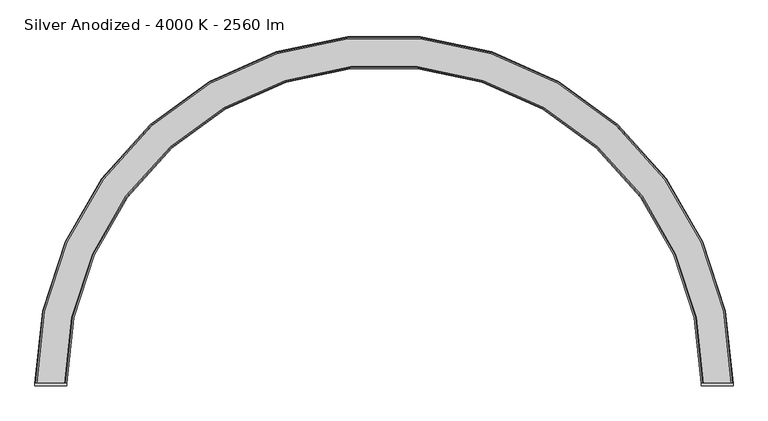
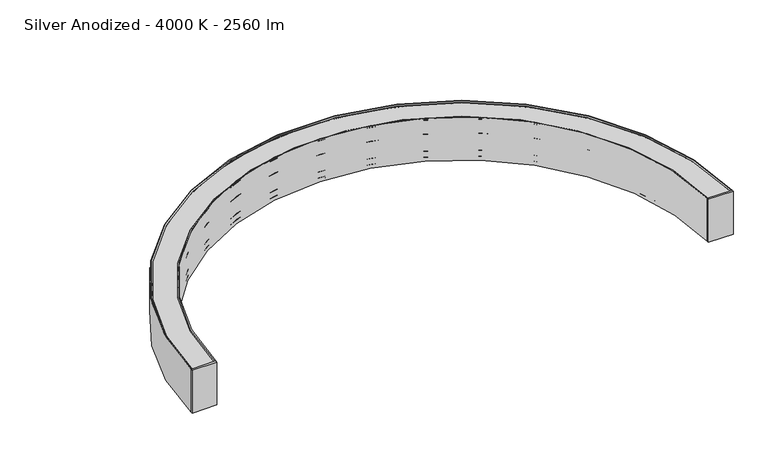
"""IFC4 building model written with IfcOpenShell, lengths in millimetres: light fixture geometry, KLUŚ - SERPENT - R NT 1_2 r 500 : Silver Anodized - 4000 K - 2560 lm."""

from ifc_helpers import new_model, si_unit, point, frame, frame_2d, origin, origin_with_axes, origin_2d, place, context, project, spatial, polyline, circle_curve, trimmed, segment, composite_curve, outline, extrude, source, transform, mapped, element, save
from ifc_brep_helpers import plane_surface, cylinder_surface, revolved_surface, advanced_brep


def silver_anodized_4000_k_2560_lm_beeaa282(model_context):
    return source(origin(), model_context, "Body", "SolidModel", [
        advanced_brep(
        [(466.6768614, 168.0140084, 0.8), (474.2039076, 170.7239118, 0.8), (474.2039076, 170.7239118, 0.0), (466.6768614, 168.0140084, 0.0), (452.5257228, 177.79896, 0.0), (446.9274823, 175.7834694, 5.3344882), (446.9274823, 175.7834694, 14.5), (447.6801869, 176.0544597, 14.5), (447.6801869, 176.0544597, 5.691693), (452.8137392, 177.9026523, 0.8), (478.582368, 187.1799295, 0.8), (483.7159203, 189.0281221, 5.691693), (483.7159203, 189.0281221, 14.5), (484.4686249, 189.2991124, 14.5), (484.4686249, 189.2991124, 5.3344882), (478.8703844, 187.2836218, 0.0), (462.0103846, 151.4542985, 0.0), (488.3550461, 160.9389602, 0.0), (493.9532867, 162.9544509, 5.3344882), (493.9532867, 162.9544509, 14.5), (493.2005821, 162.6834605, 14.5), (493.2005821, 162.6834605, 5.691693), (488.0670297, 160.835268, 0.8), (462.298401, 151.5579908, 0.8), (457.1648486, 149.7097982, 5.691693), (457.1648486, 149.7097982, 14.5), (456.412144, 149.4388078, 14.5), (456.412144, 149.4388078, 5.3344882)],
        [
            (0, 1, circle_curve(frame((470.4403845, 169.3689601, 0.8), z_axis=(0.0, 0.0, 1.0), x_axis=(-0.9408807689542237, -0.33873792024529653, 0.0)), 4.0)),
            (1, 2),
            (2, 3, circle_curve(frame((470.4403845, 169.3689601, 0.0), z_axis=(0.0, 0.0, -1.0), x_axis=(-0.9408807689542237, -0.33873792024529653, 0.0)), 4.0)),
            (3, 0),
            (3, 2, circle_curve(frame((470.4403845, 169.3689601, 0.0), z_axis=(0.0, 0.0, -1.0), x_axis=(-0.9408807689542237, -0.33873792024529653, 0.0)), 4.0)),
            (1, 0, circle_curve(frame((470.4403845, 169.3689601, 0.8), z_axis=(0.0, 0.0, 1.0), x_axis=(-0.9408807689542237, -0.33873792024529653, 0.0)), 4.0)),
            (4, 5),
            (5, 6),
            (6, 7),
            (7, 8),
            (8, 9),
            (9, 10),
            (10, 11),
            (11, 12),
            (12, 13),
            (13, 14),
            (14, 15),
            (15, 4),
            (16, 17),
            (17, 18),
            (18, 19),
            (19, 20),
            (20, 21),
            (21, 22),
            (22, 23),
            (23, 24),
            (24, 25),
            (25, 26),
            (26, 27),
            (27, 16),
            (15, 17),
            (16, 4),
            (14, 18),
            (13, 19),
            (12, 20),
            (11, 21),
            (10, 22),
            (9, 23),
            (8, 24),
            (7, 25),
            (6, 26),
            (5, 27),
        ],
        [
            revolved_surface(polyline([(466.6768614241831, 168.01400841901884, 0.8), (466.6768614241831, 168.01400841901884, 0.0)]), (470.4403845, 169.3689601, 0.0), (0.0, 0.0, 1.0)),
            plane_surface(frame((465.6980536, 182.5412909, 0.0), z_axis=(-0.33873792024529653, 0.9408807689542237, 0.0), x_axis=(0.0, 0.0, 1.0))),
            plane_surface(frame((475.1827154, 156.1966294, 0.0), z_axis=(0.33873792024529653, -0.9408807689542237, 0.0), x_axis=(0.0, 0.0, 1.0))),
            plane_surface(frame((452.5257228, 177.79896, 0.0), z_axis=(0.0, 0.0, -1.0), x_axis=(0.33873792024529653, -0.9408807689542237, 0.0))),
            plane_surface(frame((478.8703844, 187.2836218, 0.0), z_axis=(0.6280806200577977, 0.22612293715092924, -0.7445691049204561), x_axis=(0.33873792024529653, -0.9408807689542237, 0.0))),
            plane_surface(frame((484.4686249, 189.2991124, 5.3344882), z_axis=(0.9408807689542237, 0.33873792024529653, 0.0), x_axis=(0.33873792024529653, -0.9408807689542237, 0.0))),
            plane_surface(frame((484.4686249, 189.2991124, 14.5), z_axis=(0.0, 0.0, 1.0), x_axis=(0.33873792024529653, -0.9408807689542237, 0.0))),
            plane_surface(frame((483.7159203, 189.0281221, 14.5), z_axis=(-0.9408807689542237, -0.33873792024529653, 0.0), x_axis=(0.33873792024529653, -0.9408807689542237, 0.0))),
            plane_surface(frame((483.7159203, 189.0281221, 5.691693), z_axis=(-0.6280806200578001, -0.22612293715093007, 0.744569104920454), x_axis=(0.33873792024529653, -0.9408807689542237, 0.0))),
            plane_surface(frame((478.582368, 187.1799295, 0.8), z_axis=(0.0, 0.0, 1.0), x_axis=(0.33873792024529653, -0.9408807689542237, 0.0))),
            plane_surface(frame((452.8137392, 177.9026523, 0.8), z_axis=(0.6280806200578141, 0.2261229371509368, 0.7445691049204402), x_axis=(0.33873792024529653, -0.9408807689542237, 0.0))),
            plane_surface(frame((447.6801869, 176.0544597, 5.691693), z_axis=(0.9408807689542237, 0.33873792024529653, 0.0), x_axis=(0.33873792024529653, -0.9408807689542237, 0.0))),
            plane_surface(frame((447.6801869, 176.0544597, 14.5), z_axis=(0.0, 0.0, 1.0), x_axis=(0.33873792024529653, -0.9408807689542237, 0.0))),
            plane_surface(frame((446.9274823, 175.7834694, 14.5), z_axis=(-0.9408807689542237, -0.33873792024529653, 0.0), x_axis=(0.33873792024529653, -0.9408807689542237, 0.0))),
            plane_surface(frame((446.9274823, 175.7834694, 5.3344882), z_axis=(-0.628080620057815, -0.2261229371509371, -0.7445691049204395), x_axis=(0.33873792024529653, -0.9408807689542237, 0.0))),
        ],
        [
            (0, [[1, 2, 3, 4]]),
            (0, [[5, -2, 6, -4]]),
            (1, [[7, 8, 9, 10, 11, 12, 13, 14, 15, 16, 17, 18]]),
            (2, [[19, 20, 21, 22, 23, 24, 25, 26, 27, 28, 29, 30]]),
            (3, [[31, -19, 32, -18], [-5, -3]]),
            (4, [[33, -20, -31, -17]]),
            (5, [[34, -21, -33, -16]]),
            (6, [[35, -22, -34, -15]]),
            (7, [[36, -23, -35, -14]]),
            (8, [[37, -24, -36, -13]]),
            (9, [[38, -25, -37, -12], [-6, -1]]),
            (10, [[39, -26, -38, -11]]),
            (11, [[40, -27, -39, -10]]),
            (12, [[41, -28, -40, -9]]),
            (13, [[42, -29, -41, -8]]),
            (14, [[-32, -30, -42, -7]]),
        ],
    ),
        advanced_brep(
        [(0.0, 496.0, 0.8), (0.0, 504.0, 0.8), (0.0, 504.0, 0.0), (0.0, 496.0, 0.0), (-14.0, 486.0, 0.0), (-14.0, 480.05, 5.3344882), (-14.0, 480.05, 14.5), (-14.0, 480.85, 14.5), (-14.0, 480.85, 5.691693), (-14.0, 486.3061136, 0.8), (-14.0, 513.6938864, 0.8), (-14.0, 519.15, 5.691693), (-14.0, 519.15, 14.5), (-14.0, 519.95, 14.5), (-14.0, 519.95, 5.3344882), (-14.0, 514.0, 0.0), (14.0, 486.0, 0.0), (14.0, 514.0, 0.0), (14.0, 519.95, 5.3344882), (14.0, 519.95, 14.5), (14.0, 519.15, 14.5), (14.0, 519.15, 5.691693), (14.0, 513.6938864, 0.8), (14.0, 486.3061136, 0.8), (14.0, 480.85, 5.691693), (14.0, 480.85, 14.5), (14.0, 480.05, 14.5), (14.0, 480.05, 5.3344882)],
        [
            (0, 1, circle_curve(frame((0.0, 500.0, 0.8), z_axis=(0.0, 0.0, 1.0), x_axis=(0.0, -1.0, 0.0)), 4.0)),
            (1, 2),
            (2, 3, circle_curve(frame((0.0, 500.0, 0.0), z_axis=(0.0, 0.0, -1.0), x_axis=(0.0, -1.0, 0.0)), 4.0)),
            (3, 0),
            (3, 2, circle_curve(frame((0.0, 500.0, 0.0), z_axis=(0.0, 0.0, -1.0), x_axis=(0.0, -1.0, 0.0)), 4.0)),
            (1, 0, circle_curve(frame((0.0, 500.0, 0.8), z_axis=(0.0, 0.0, 1.0), x_axis=(0.0, -1.0, 0.0)), 4.0)),
            (4, 5),
            (5, 6),
            (6, 7),
            (7, 8),
            (8, 9),
            (9, 10),
            (10, 11),
            (11, 12),
            (12, 13),
            (13, 14),
            (14, 15),
            (15, 4),
            (16, 17),
            (17, 18),
            (18, 19),
            (19, 20),
            (20, 21),
            (21, 22),
            (22, 23),
            (23, 24),
            (24, 25),
            (25, 26),
            (26, 27),
            (27, 16),
            (15, 17),
            (16, 4),
            (14, 18),
            (13, 19),
            (12, 20),
            (11, 21),
            (10, 22),
            (9, 23),
            (8, 24),
            (7, 25),
            (6, 26),
            (5, 27),
        ],
        [
            revolved_surface(polyline([(0.0, 496.0, 0.8), (0.0, 496.0, 0.0)]), (0.0, 500.0, 0.0), (0.0, 0.0, 1.0)),
            plane_surface(frame((-14.0, 500.0, 0.0), z_axis=(-1.0, 0.0, 0.0), x_axis=(0.0, 0.0, 1.0))),
            plane_surface(frame((14.0, 500.0, 0.0), z_axis=(1.0, 0.0, 0.0), x_axis=(0.0, 0.0, 1.0))),
            plane_surface(frame((-14.0, 486.0, 0.0), z_axis=(0.0, 0.0, -1.0), x_axis=(1.0, 0.0, 0.0))),
            plane_surface(frame((-14.0, 514.0, 0.0), z_axis=(0.0, 0.6675453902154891, -0.744569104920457), x_axis=(1.0, 0.0, 0.0))),
            plane_surface(frame((-14.0, 519.95, 5.3344882), z_axis=(0.0, 1.0, 0.0), x_axis=(1.0, 0.0, 0.0))),
            plane_surface(frame((-14.0, 519.95, 14.5), z_axis=(0.0, 0.0, 1.0), x_axis=(1.0, 0.0, 0.0))),
            plane_surface(frame((-14.0, 519.15, 14.5), z_axis=(0.0, -1.0, 0.0), x_axis=(1.0, 0.0, 0.0))),
            plane_surface(frame((-14.0, 519.15, 5.691693), z_axis=(0.0, -0.6675453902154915, 0.7445691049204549), x_axis=(1.0, 0.0, 0.0))),
            plane_surface(frame((-14.0, 513.6938864, 0.8), z_axis=(0.0, 0.0, 1.0), x_axis=(1.0, 0.0, 0.0))),
            plane_surface(frame((-14.0, 486.3061136, 0.8), z_axis=(0.0, 0.6675453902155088, 0.7445691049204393), x_axis=(1.0, 0.0, 0.0))),
            plane_surface(frame((-14.0, 480.85, 5.691693), z_axis=(0.0, 1.0, 0.0), x_axis=(1.0, 0.0, 0.0))),
            plane_surface(frame((-14.0, 480.85, 14.5), z_axis=(0.0, 0.0, 1.0), x_axis=(1.0, 0.0, 0.0))),
            plane_surface(frame((-14.0, 480.05, 14.5), z_axis=(0.0, -1.0, 0.0), x_axis=(1.0, 0.0, 0.0))),
            plane_surface(frame((-14.0, 480.05, 5.3344882), z_axis=(0.0, -0.6675453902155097, -0.7445691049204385), x_axis=(1.0, 0.0, 0.0))),
        ],
        [
            (0, [[1, 2, 3, 4]]),
            (0, [[5, -2, 6, -4]]),
            (1, [[7, 8, 9, 10, 11, 12, 13, 14, 15, 16, 17, 18]]),
            (2, [[19, 20, 21, 22, 23, 24, 25, 26, 27, 28, 29, 30]]),
            (3, [[31, -19, 32, -18], [-5, -3]]),
            (4, [[33, -20, -31, -17]]),
            (5, [[34, -21, -33, -16]]),
            (6, [[35, -22, -34, -15]]),
            (7, [[36, -23, -35, -14]]),
            (8, [[37, -24, -36, -13]]),
            (9, [[38, -25, -37, -12], [-6, -1]]),
            (10, [[39, -26, -38, -11]]),
            (11, [[40, -27, -39, -10]]),
            (12, [[41, -28, -40, -9]]),
            (13, [[42, -29, -41, -8]]),
            (14, [[-32, -30, -42, -7]]),
        ],
    ),
        extrude(outline(polyline([(524.0, -3.5), (476.0, -3.5), (476.0, 0.0), (524.0, 0.0), (524.0, -3.5)])), frame((0.0, 0.0, 5.0), z_axis=(0.0, 0.0, 1.0), x_axis=(1.0, 0.0, 0.0)), (0.0, 0.0, 1.0), 88.0),
        extrude(outline(polyline([(-476.0, -3.5), (-524.0, -3.5), (-524.0, 0.0), (-476.0, 0.0), (-476.0, -3.5)])), frame((0.0, 0.0, 5.0), z_axis=(0.0, 0.0, 1.0), x_axis=(1.0, 0.0, 0.0)), (0.0, 0.0, 1.0), 88.0),
        advanced_brep(
        [(-466.6768614, 168.0140084, 0.8), (-466.6768614, 168.0140084, 0.0), (-474.2039076, 170.7239118, 0.0), (-474.2039076, 170.7239118, 0.8), (-452.5257228, 177.79896, 0.0), (-478.8703844, 187.2836218, 0.0), (-484.4686249, 189.2991124, 5.3344882), (-484.4686249, 189.2991124, 14.5), (-483.7159203, 189.0281221, 14.5), (-483.7159203, 189.0281221, 5.691693), (-478.582368, 187.1799295, 0.8), (-452.8137392, 177.9026523, 0.8), (-447.6801869, 176.0544597, 5.691693), (-447.6801869, 176.0544597, 14.5), (-446.9274823, 175.7834694, 14.5), (-446.9274823, 175.7834694, 5.3344882), (-462.0103846, 151.4542985, 0.0), (-456.412144, 149.4388078, 5.3344882), (-456.412144, 149.4388078, 14.5), (-457.1648486, 149.7097982, 14.5), (-457.1648486, 149.7097982, 5.691693), (-462.298401, 151.5579908, 0.8), (-488.0670297, 160.835268, 0.8), (-493.2005821, 162.6834605, 5.691693), (-493.2005821, 162.6834605, 14.5), (-493.9532867, 162.9544509, 14.5), (-493.9532867, 162.9544509, 5.3344882), (-488.3550461, 160.9389602, 0.0)],
        [
            (0, 1),
            (1, 2, circle_curve(frame((-470.4403845, 169.3689601, 0.0), z_axis=(0.0, 0.0, -1.0), x_axis=(0.9408807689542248, -0.33873792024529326, 0.0)), 4.0)),
            (2, 3),
            (3, 0, circle_curve(frame((-470.4403845, 169.3689601, 0.8), z_axis=(0.0, 0.0, 1.0), x_axis=(0.9408807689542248, -0.33873792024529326, 0.0)), 4.0)),
            (0, 3, circle_curve(frame((-470.4403845, 169.3689601, 0.8), z_axis=(0.0, 0.0, 1.0), x_axis=(0.9408807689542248, -0.33873792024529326, 0.0)), 4.0)),
            (2, 1, circle_curve(frame((-470.4403845, 169.3689601, 0.0), z_axis=(0.0, 0.0, -1.0), x_axis=(0.9408807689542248, -0.33873792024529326, 0.0)), 4.0)),
            (4, 5),
            (5, 6),
            (6, 7),
            (7, 8),
            (8, 9),
            (9, 10),
            (10, 11),
            (11, 12),
            (12, 13),
            (13, 14),
            (14, 15),
            (15, 4),
            (16, 17),
            (17, 18),
            (18, 19),
            (19, 20),
            (20, 21),
            (21, 22),
            (22, 23),
            (23, 24),
            (24, 25),
            (25, 26),
            (26, 27),
            (27, 16),
            (4, 16),
            (27, 5),
            (26, 6),
            (25, 7),
            (24, 8),
            (23, 9),
            (22, 10),
            (21, 11),
            (20, 12),
            (19, 13),
            (18, 14),
            (17, 15),
        ],
        [
            revolved_surface(polyline([(-466.6768614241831, 168.01400841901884, 0.8), (-466.6768614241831, 168.01400841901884, 0.0)]), (-470.4403845, 169.3689601, 0.0), (0.0, 0.0, 1.0)),
            plane_surface(frame((-465.6980536, 182.5412909, 0.0), z_axis=(0.33873792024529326, 0.9408807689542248, 0.0), x_axis=(0.0, 0.0, 1.0))),
            plane_surface(frame((-475.1827154, 156.1966294, 0.0), z_axis=(-0.33873792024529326, -0.9408807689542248, 0.0), x_axis=(0.0, 0.0, 1.0))),
            plane_surface(frame((-452.5257228, 177.79896, 0.0), z_axis=(0.0, 0.0, -1.0), x_axis=(-0.33873792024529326, -0.9408807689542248, 0.0))),
            plane_surface(frame((-478.8703844, 187.2836218, 0.0), z_axis=(-0.6280806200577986, 0.2261229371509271, -0.744569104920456), x_axis=(-0.33873792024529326, -0.9408807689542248, 0.0))),
            plane_surface(frame((-484.4686249, 189.2991124, 5.3344882), z_axis=(-0.9408807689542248, 0.33873792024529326, 0.0), x_axis=(-0.33873792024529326, -0.9408807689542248, 0.0))),
            plane_surface(frame((-484.4686249, 189.2991124, 14.5), z_axis=(0.0, 0.0, 1.0), x_axis=(-0.33873792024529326, -0.9408807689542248, 0.0))),
            plane_surface(frame((-483.7159203, 189.0281221, 14.5), z_axis=(0.9408807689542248, -0.33873792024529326, 0.0), x_axis=(-0.33873792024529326, -0.9408807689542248, 0.0))),
            plane_surface(frame((-483.7159203, 189.0281221, 5.691693), z_axis=(0.6280806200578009, -0.22612293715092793, 0.7445691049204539), x_axis=(-0.33873792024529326, -0.9408807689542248, 0.0))),
            plane_surface(frame((-478.582368, 187.1799295, 0.8), z_axis=(0.0, 0.0, 1.0), x_axis=(-0.33873792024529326, -0.9408807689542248, 0.0))),
            plane_surface(frame((-452.8137392, 177.9026523, 0.8), z_axis=(-0.6280806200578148, 0.22612293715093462, 0.74456910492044), x_axis=(-0.33873792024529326, -0.9408807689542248, 0.0))),
            plane_surface(frame((-447.6801869, 176.0544597, 5.691693), z_axis=(-0.9408807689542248, 0.33873792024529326, 0.0), x_axis=(-0.33873792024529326, -0.9408807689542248, 0.0))),
            plane_surface(frame((-447.6801869, 176.0544597, 14.5), z_axis=(0.0, 0.0, 1.0), x_axis=(-0.33873792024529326, -0.9408807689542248, 0.0))),
            plane_surface(frame((-446.9274823, 175.7834694, 14.5), z_axis=(0.9408807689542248, -0.33873792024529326, 0.0), x_axis=(-0.33873792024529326, -0.9408807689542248, 0.0))),
            plane_surface(frame((-446.9274823, 175.7834694, 5.3344882), z_axis=(0.6280806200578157, -0.2261229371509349, -0.7445691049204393), x_axis=(-0.33873792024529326, -0.9408807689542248, 0.0))),
        ],
        [
            (0, [[1, 2, 3, 4]]),
            (0, [[-1, 5, -3, 6]]),
            (1, [[7, 8, 9, 10, 11, 12, 13, 14, 15, 16, 17, 18]]),
            (2, [[19, 20, 21, 22, 23, 24, 25, 26, 27, 28, 29, 30]]),
            (3, [[-7, 31, -30, 32], [-2, -6]]),
            (4, [[-8, -32, -29, 33]]),
            (5, [[-9, -33, -28, 34]]),
            (6, [[-10, -34, -27, 35]]),
            (7, [[-11, -35, -26, 36]]),
            (8, [[-12, -36, -25, 37]]),
            (9, [[-13, -37, -24, 38], [-4, -5]]),
            (10, [[-14, -38, -23, 39]]),
            (11, [[-15, -39, -22, 40]]),
            (12, [[-16, -40, -21, 41]]),
            (13, [[-17, -41, -20, 42]]),
            (14, [[-18, -42, -19, -31]]),
        ],
    ),
        advanced_brep(
        [(-480.05, 0.0, 5.0), (-476.0, 0.0, 5.0), (-476.0, 0.0, 93.0), (-477.35, 0.0, 93.0), (-478.85, 0.0, 91.2514719), (-477.35, 0.0, 89.5029437), (-477.35, 0.0, 13.7), (-480.05, 0.0, 13.7), (480.05, 0.0, 5.0), (480.05, 0.0, 13.7), (477.35, 0.0, 13.7), (477.35, 0.0, 89.5029437), (478.85, 0.0, 91.2514719), (477.35, 0.0, 93.0), (476.0, 0.0, 93.0), (476.0, 0.0, 5.0)],
        [
            (0, 1),
            (1, 2),
            (2, 3),
            (3, 4),
            (4, 5),
            (5, 6),
            (6, 7),
            (7, 0),
            (8, 9),
            (9, 10),
            (10, 11),
            (11, 12),
            (12, 13),
            (13, 14),
            (14, 15),
            (15, 8),
            (15, 1, circle_curve(frame((0.0, 0.0, 5.0), z_axis=(0.0, 0.0, 1.0), x_axis=(-1.0, 0.0, 0.0)), 476.0)),
            (0, 8, circle_curve(frame((0.0, 0.0, 5.0), z_axis=(0.0, 0.0, -1.0), x_axis=(-1.0, 0.0, 0.0)), 480.05)),
            (14, 2, circle_curve(frame((0.0, 0.0, 93.0), z_axis=(0.0, 0.0, 1.0), x_axis=(-1.0, 0.0, 0.0)), 476.0)),
            (13, 3, circle_curve(frame((0.0, 0.0, 93.0), z_axis=(0.0, 0.0, 1.0), x_axis=(-1.0, 0.0, 0.0)), 477.35)),
            (12, 4, circle_curve(frame((0.0, 0.0, 91.2514719), z_axis=(0.0, 0.0, 1.0), x_axis=(-1.0, 0.0, 0.0)), 478.85)),
            (11, 5, circle_curve(frame((0.0, 0.0, 89.5029437), z_axis=(0.0, 0.0, 1.0), x_axis=(-1.0, 0.0, 0.0)), 477.35)),
            (10, 6, circle_curve(frame((0.0, 0.0, 13.7), z_axis=(0.0, 0.0, 1.0), x_axis=(-1.0, 0.0, 0.0)), 477.35)),
            (9, 7, circle_curve(frame((0.0, 0.0, 13.7), z_axis=(0.0, 0.0, 1.0), x_axis=(-1.0, 0.0, 0.0)), 480.05)),
        ],
        [
            plane_surface(frame((-500.0, 0.0, 5.0), z_axis=(0.0, -1.0, 0.0), x_axis=(0.0, 0.0, 1.0))),
            plane_surface(frame((500.0, 0.0, 5.0), z_axis=(0.0, -1.0, 0.0), x_axis=(0.0, 0.0, 1.0))),
            plane_surface(frame((0.0, 0.0, 5.0), z_axis=(0.0, 0.0, -1.0), x_axis=(-1.0, 0.0, 0.0))),
            revolved_surface(polyline([(-476.0, 0.0, 5.0), (-476.0, 0.0, 93.0)]), (0.0, 0.0, 5.0), (0.0, 0.0, -1.0)),
            plane_surface(frame((0.0, 0.0, 93.0), z_axis=(0.0, 0.0, 1.0), x_axis=(-1.0, 0.0, 0.0))),
            revolved_surface(polyline([(-477.35, 0.0, 93.0), (-478.85, 0.0, 91.2514719)]), (0.0, 0.0, 5.0), (0.0, 0.0, -1.0)),
            revolved_surface(polyline([(-478.85, 0.0, 91.2514719), (-477.35, 0.0, 89.5029437)]), (0.0, 0.0, 5.0), (0.0, 0.0, -1.0)),
            cylinder_surface(frame((0.0, 0.0, 5.0), z_axis=(0.0, 0.0, -1.0), x_axis=(-1.0, 0.0, 0.0)), 477.35),
            plane_surface(frame((0.0, 0.0, 13.7), z_axis=(0.0, 0.0, 1.0), x_axis=(-1.0, 0.0, 0.0))),
            cylinder_surface(frame((0.0, 0.0, 5.0), z_axis=(0.0, 0.0, -1.0), x_axis=(-1.0, 0.0, 0.0)), 480.05),
        ],
        [
            (0, [[1, 2, 3, 4, 5, 6, 7, 8]]),
            (1, [[9, 10, 11, 12, 13, 14, 15, 16]]),
            (2, [[17, -1, 18, -16]]),
            (3, [[19, -2, -17, -15]]),
            (4, [[20, -3, -19, -14]]),
            (5, [[21, -4, -20, -13]]),
            (6, [[22, -5, -21, -12]]),
            (7, [[23, -6, -22, -11]]),
            (8, [[24, -7, -23, -10]]),
            (9, [[-18, -8, -24, -9]]),
        ],
    ),
        advanced_brep(
        [(-519.95, 0.0, 5.0), (-519.95, 0.0, 13.7), (-522.65, 0.0, 13.7), (-522.65, 0.0, 89.5029437), (-521.15, 0.0, 91.2514719), (-522.65, 0.0, 93.0), (-524.0, 0.0, 93.0), (-524.0, 0.0, 5.0), (519.95, 0.0, 5.0), (524.0, 0.0, 5.0), (524.0, 0.0, 93.0), (522.65, 0.0, 93.0), (521.15, 0.0, 91.2514719), (522.65, 0.0, 89.5029437), (522.65, 0.0, 13.7), (519.95, 0.0, 13.7)],
        [
            (0, 1),
            (1, 2),
            (2, 3),
            (3, 4),
            (4, 5),
            (5, 6),
            (6, 7),
            (7, 0),
            (8, 9),
            (9, 10),
            (10, 11),
            (11, 12),
            (12, 13),
            (13, 14),
            (14, 15),
            (15, 8),
            (15, 1, circle_curve(frame((0.0, 0.0, 13.7), z_axis=(0.0, 0.0, 1.0), x_axis=(-1.0, 0.0, 0.0)), 519.95)),
            (0, 8, circle_curve(frame((0.0, 0.0, 5.0), z_axis=(0.0, 0.0, -1.0), x_axis=(-1.0, 0.0, 0.0)), 519.95)),
            (14, 2, circle_curve(frame((0.0, 0.0, 13.7), z_axis=(0.0, 0.0, 1.0), x_axis=(-1.0, 0.0, 0.0)), 522.65)),
            (13, 3, circle_curve(frame((0.0, 0.0, 89.5029437), z_axis=(0.0, 0.0, 1.0), x_axis=(-1.0, 0.0, 0.0)), 522.65)),
            (12, 4, circle_curve(frame((0.0, 0.0, 91.2514719), z_axis=(0.0, 0.0, 1.0), x_axis=(-1.0, 0.0, 0.0)), 521.15)),
            (11, 5, circle_curve(frame((0.0, 0.0, 93.0), z_axis=(0.0, 0.0, 1.0), x_axis=(-1.0, 0.0, 0.0)), 522.65)),
            (10, 6, circle_curve(frame((0.0, 0.0, 93.0), z_axis=(0.0, 0.0, 1.0), x_axis=(-1.0, 0.0, 0.0)), 524.0)),
            (9, 7, circle_curve(frame((0.0, 0.0, 5.0), z_axis=(0.0, 0.0, 1.0), x_axis=(-1.0, 0.0, 0.0)), 524.0)),
        ],
        [
            plane_surface(frame((-500.0, 0.0, 5.0), z_axis=(0.0, -1.0, 0.0), x_axis=(0.0, 0.0, 1.0))),
            plane_surface(frame((500.0, 0.0, 5.0), z_axis=(0.0, -1.0, 0.0), x_axis=(0.0, 0.0, 1.0))),
            revolved_surface(polyline([(-519.95, 0.0, 5.0), (-519.95, 0.0, 13.7)]), (0.0, 0.0, 5.0), (0.0, 0.0, -1.0)),
            plane_surface(frame((0.0, 0.0, 13.7), z_axis=(0.0, 0.0, 1.0), x_axis=(-1.0, 0.0, 0.0))),
            revolved_surface(polyline([(-522.65, 0.0, 13.7), (-522.65, 0.0, 89.5029437)]), (0.0, 0.0, 5.0), (0.0, 0.0, -1.0)),
            revolved_surface(polyline([(-522.65, 0.0, 89.5029437), (-521.15, 0.0, 91.2514719)]), (0.0, 0.0, 5.0), (0.0, 0.0, -1.0)),
            revolved_surface(polyline([(-521.15, 0.0, 91.2514719), (-522.65, 0.0, 93.0)]), (0.0, 0.0, 5.0), (0.0, 0.0, -1.0)),
            plane_surface(frame((0.0, 0.0, 93.0), z_axis=(0.0, 0.0, 1.0), x_axis=(-1.0, 0.0, 0.0))),
            cylinder_surface(frame((0.0, 0.0, 5.0), z_axis=(0.0, 0.0, -1.0), x_axis=(-1.0, 0.0, 0.0)), 524.0),
            plane_surface(frame((0.0, 0.0, 5.0), z_axis=(0.0, 0.0, -1.0), x_axis=(-1.0, 0.0, 0.0))),
        ],
        [
            (0, [[1, 2, 3, 4, 5, 6, 7, 8]]),
            (1, [[9, 10, 11, 12, 13, 14, 15, 16]]),
            (2, [[17, -1, 18, -16]]),
            (3, [[19, -2, -17, -15]]),
            (4, [[20, -3, -19, -14]]),
            (5, [[21, -4, -20, -13]]),
            (6, [[22, -5, -21, -12]]),
            (7, [[23, -6, -22, -11]]),
            (8, [[24, -7, -23, -10]]),
            (9, [[-18, -8, -24, -9]]),
        ],
    ),
        extrude(outline(composite_curve([segment(trimmed(circle_curve(frame_2d((-453.1538935, 211.3091309)), 2.5), [point((-450.6538935, 211.3091309))], [point((-455.6538935, 211.3091309))], False, "CARTESIAN"), True, "CONTINUOUS"), segment(trimmed(circle_curve(frame_2d((-453.1538935, 211.3091309)), 2.5), [point((-455.6538935, 211.3091309))], [point((-450.6538935, 211.3091309))], False, "CARTESIAN"), True, "CONTINUOUS")], self_intersect=False)), origin_with_axes(), (0.0, 0.0, 1.0), 24.0),
        extrude(outline(composite_curve([segment(trimmed(circle_curve(origin_2d(), 477.35), [point((477.35, 0.0))], [point((-477.35, 0.0))], True, "CARTESIAN"), True, "CONTINUOUS"), segment(polyline([(-477.35, 0.0), (-522.65, 0.0)]), True, "CONTINUOUS"), segment(trimmed(circle_curve(origin_2d(), 522.65), [point((-522.65, 0.0))], [point((522.65, 0.0))], False, "CARTESIAN"), True, "CONTINUOUS"), segment(polyline([(522.65, 0.0), (477.35, 0.0)]), True, "CONTINUOUS")], self_intersect=False)), frame((0.0, 0.0, 88.0), z_axis=(0.0, 0.0, 1.0), x_axis=(1.0, 0.0, 0.0)), (0.0, 0.0, 1.0), 1.5),
        extrude(outline(composite_curve([segment(trimmed(circle_curve(origin_2d(), 477.35), [point((477.35, 0.0))], [point((-477.35, 0.0))], True, "CARTESIAN"), True, "CONTINUOUS"), segment(polyline([(-477.35, 0.0), (-522.65, 0.0)]), True, "CONTINUOUS"), segment(trimmed(circle_curve(origin_2d(), 522.65), [point((-522.65, 0.0))], [point((522.65, 0.0))], False, "CARTESIAN"), True, "CONTINUOUS"), segment(polyline([(522.65, 0.0), (477.35, 0.0)]), True, "CONTINUOUS")], self_intersect=False)), frame((0.0, 0.0, 24.0), z_axis=(0.0, 0.0, 1.0), x_axis=(1.0, 0.0, 0.0)), (0.0, 0.0, 1.0), 2.0),
        extrude(outline(composite_curve([segment(trimmed(circle_curve(origin_2d(), 477.35), [point((477.35, 0.0))], [point((-477.35, 0.0))], True, "CARTESIAN"), True, "CONTINUOUS"), segment(polyline([(-477.35, 0.0), (-522.65, 0.0)]), True, "CONTINUOUS"), segment(trimmed(circle_curve(origin_2d(), 522.65), [point((-522.65, 0.0))], [point((522.65, 0.0))], False, "CARTESIAN"), True, "CONTINUOUS"), segment(polyline([(522.65, 0.0), (477.35, 0.0)]), True, "CONTINUOUS")], self_intersect=False)), frame((0.0, 0.0, 59.5), z_axis=(0.0, 0.0, 1.0), x_axis=(1.0, 0.0, 0.0)), (0.0, 0.0, 1.0), 1.5),
    ])


if __name__ == "__main__":
    model = new_model("IFC4")
    model_context = context("Model", 3, world=origin())
    ifc_project = project(units=[si_unit("LENGTHUNIT", "METRE", prefix="MILLI")], contexts=[model_context])
    site = spatial("IfcSite", under=ifc_project)
    building = spatial("IfcBuilding", under=site)
    placement = place(None, origin())
    silver_anodized_4000_k_2560_lm_shape = silver_anodized_4000_k_2560_lm_beeaa282(model_context)
    element("IfcLightFixture", 1, ObjectType="KLUŚ - SERPENT - R NT 1_2 r 500 : Silver Anodized - 4000 K - 2560 lm", at=placement, inside=building, context=model_context, shape_type="MappedRepresentation", body=[
        mapped(silver_anodized_4000_k_2560_lm_shape, transform((0.0, 0.0, 0.0), x_axis=(1.0, 0.0, 0.0), y_axis=(0.0, 1.0, 0.0), z_axis=(0.0, 0.0, 1.0))),
    ])
    save(model, "model.ifc")
